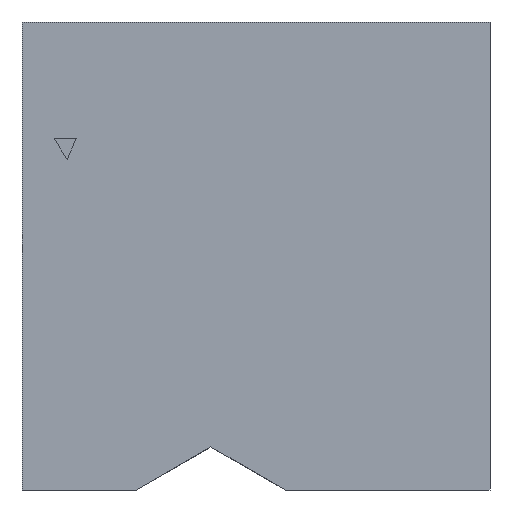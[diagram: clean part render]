
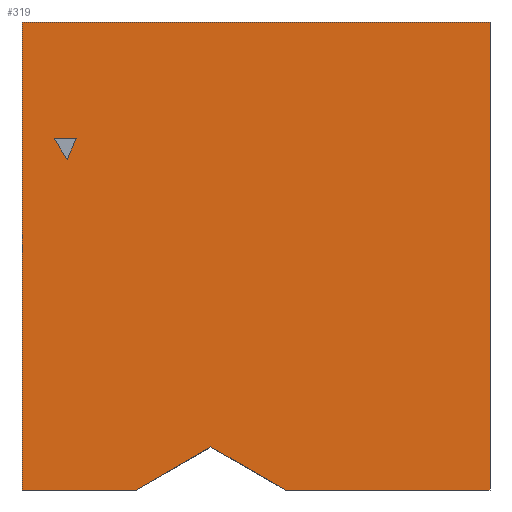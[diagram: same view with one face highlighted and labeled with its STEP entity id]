
A CAD part, front view. The second image highlights one B-rep face of the part: STEP entity #319.
In plain terms, the highlighted planar face has unit normal (0, -1, 0).
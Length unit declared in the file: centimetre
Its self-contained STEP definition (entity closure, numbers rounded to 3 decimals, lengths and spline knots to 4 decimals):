
#6 = VERTEX_POINT ( 'NONE', #466 ) ;
#31 = CARTESIAN_POINT ( 'NONE',  ( 244.2309, 0., 0. ) ) ;
#55 = VERTEX_POINT ( 'NONE', #109 ) ;
#71 = LINE ( 'NONE', #739, #266 ) ;
#73 = VERTEX_POINT ( 'NONE', #216 ) ;
#82 = VECTOR ( 'NONE', #890, 100. ) ;
#84 = ORIENTED_EDGE ( 'NONE', *, *, #802, .T. ) ;
#109 = CARTESIAN_POINT ( 'NONE',  ( 562.8654, 0., 0. ) ) ;
#112 = CARTESIAN_POINT ( 'NONE',  ( 0., 0., 1000. ) ) ;
#126 = VERTEX_POINT ( 'NONE', #221 ) ;
#152 = ORIENTED_EDGE ( 'NONE', *, *, #242, .F. ) ;
#191 = ORIENTED_EDGE ( 'NONE', *, *, #1026, .T. ) ;
#192 = LINE ( 'NONE', #850, #747 ) ;
#199 = ORIENTED_EDGE ( 'NONE', *, *, #738, .F. ) ;
#216 = CARTESIAN_POINT ( 'NONE',  ( 0., 0., 1000. ) ) ;
#218 = ORIENTED_EDGE ( 'NONE', *, *, #876, .F. ) ;
#221 = CARTESIAN_POINT ( 'NONE',  ( 115.8842, 0., 750.3192 ) ) ;
#222 = FACE_OUTER_BOUND ( 'NONE', #677, .T. ) ;
#234 = VERTEX_POINT ( 'NONE', #463 ) ;
#239 = LINE ( 'NONE', #568, #1037 ) ;
#241 = EDGE_LOOP ( 'NONE', ( #356, #218, #966 ) ) ;
#242 = EDGE_CURVE ( 'NONE', #73, #737, #192, .T. ) ;
#243 = CARTESIAN_POINT ( 'NONE',  ( 0., 0., 0. ) ) ;
#260 = CARTESIAN_POINT ( 'NONE',  ( 115.8842, 0., 750.3192 ) ) ;
#266 = VECTOR ( 'NONE', #273, 100. ) ;
#272 = VERTEX_POINT ( 'NONE', #687 ) ;
#273 = DIRECTION ( 'NONE',  ( 1., 0., 0. ) ) ;
#274 = LINE ( 'NONE', #446, #386 ) ;
#319 = ADVANCED_FACE ( 'NONE', ( #791, #222 ), #704, .F. ) ;
#325 = CARTESIAN_POINT ( 'NONE',  ( 1000., 0., 0. ) ) ;
#333 = LINE ( 'NONE', #967, #770 ) ;
#350 = LINE ( 'NONE', #260, #711 ) ;
#356 = ORIENTED_EDGE ( 'NONE', *, *, #680, .F. ) ;
#360 = CARTESIAN_POINT ( 'NONE',  ( 96.4441, 0., 706.9683 ) ) ;
#371 = VERTEX_POINT ( 'NONE', #325 ) ;
#386 = VECTOR ( 'NONE', #903, 100. ) ;
#390 = VECTOR ( 'NONE', #999, 100. ) ;
#412 = VECTOR ( 'NONE', #1044, 100. ) ;
#427 = ORIENTED_EDGE ( 'NONE', *, *, #705, .F. ) ;
#435 = DIRECTION ( 'NONE',  ( 0.54, 0., -0.842 ) ) ;
#439 = CARTESIAN_POINT ( 'NONE',  ( 68.6212, 0., 750.3192 ) ) ;
#446 = CARTESIAN_POINT ( 'NONE',  ( 244.2309, 0., 0. ) ) ;
#463 = CARTESIAN_POINT ( 'NONE',  ( 0., 0., 0. ) ) ;
#466 = CARTESIAN_POINT ( 'NONE',  ( 68.6212, 0., 750.3192 ) ) ;
#470 = LINE ( 'NONE', #112, #390 ) ;
#472 = DIRECTION ( 'NONE',  ( 0., 1., 0. ) ) ;
#476 = DIRECTION ( 'NONE',  ( -0.866, 0., 0.5 ) ) ;
#561 = EDGE_CURVE ( 'NONE', #272, #991, #274, .T. ) ;
#568 = CARTESIAN_POINT ( 'NONE',  ( 403.5481, 0., 92.0532 ) ) ;
#599 = VERTEX_POINT ( 'NONE', #360 ) ;
#639 = CARTESIAN_POINT ( 'NONE',  ( 1000., 0., 1000. ) ) ;
#655 = CARTESIAN_POINT ( 'NONE',  ( 96.4441, 0., 706.9683 ) ) ;
#660 = DIRECTION ( 'NONE',  ( 0., 0., -1. ) ) ;
#677 = EDGE_LOOP ( 'NONE', ( #84, #744, #199, #908, #427, #152, #191 ) ) ;
#680 = EDGE_CURVE ( 'NONE', #599, #126, #735, .T. ) ;
#687 = CARTESIAN_POINT ( 'NONE',  ( 403.5481, 0., 92.0532 ) ) ;
#704 = PLANE ( 'NONE',  #877 ) ;
#705 = EDGE_CURVE ( 'NONE', #737, #371, #333, .T. ) ;
#711 = VECTOR ( 'NONE', #987, 100. ) ;
#735 = LINE ( 'NONE', #655, #412 ) ;
#737 = VERTEX_POINT ( 'NONE', #639 ) ;
#738 = EDGE_CURVE ( 'NONE', #55, #272, #239, .T. ) ;
#739 = CARTESIAN_POINT ( 'NONE',  ( 0., 0., 0. ) ) ;
#744 = ORIENTED_EDGE ( 'NONE', *, *, #561, .F. ) ;
#747 = VECTOR ( 'NONE', #760, 100. ) ;
#760 = DIRECTION ( 'NONE',  ( 1., 0., 0. ) ) ;
#770 = VECTOR ( 'NONE', #660, 100. ) ;
#791 = FACE_BOUND ( 'NONE', #241, .T. ) ;
#797 = CARTESIAN_POINT ( 'NONE',  ( 0., 0., 1000. ) ) ;
#802 = EDGE_CURVE ( 'NONE', #234, #991, #806, .T. ) ;
#806 = LINE ( 'NONE', #243, #82 ) ;
#815 = LINE ( 'NONE', #439, #986 ) ;
#850 = CARTESIAN_POINT ( 'NONE',  ( 0., 0., 1000. ) ) ;
#863 = EDGE_CURVE ( 'NONE', #55, #371, #71, .T. ) ;
#876 = EDGE_CURVE ( 'NONE', #6, #599, #815, .T. ) ;
#877 = AXIS2_PLACEMENT_3D ( 'NONE', #797, #472, #930 ) ;
#890 = DIRECTION ( 'NONE',  ( 1., 0., 0. ) ) ;
#903 = DIRECTION ( 'NONE',  ( -0.866, 0., -0.5 ) ) ;
#908 = ORIENTED_EDGE ( 'NONE', *, *, #863, .T. ) ;
#930 = DIRECTION ( 'NONE',  ( 0., 0., 1. ) ) ;
#945 = EDGE_CURVE ( 'NONE', #126, #6, #350, .T. ) ;
#966 = ORIENTED_EDGE ( 'NONE', *, *, #945, .F. ) ;
#967 = CARTESIAN_POINT ( 'NONE',  ( 1000., 0., 1000. ) ) ;
#986 = VECTOR ( 'NONE', #435, 100. ) ;
#987 = DIRECTION ( 'NONE',  ( -1., 0., 0. ) ) ;
#991 = VERTEX_POINT ( 'NONE', #31 ) ;
#999 = DIRECTION ( 'NONE',  ( 0., 0., -1. ) ) ;
#1026 = EDGE_CURVE ( 'NONE', #73, #234, #470, .T. ) ;
#1037 = VECTOR ( 'NONE', #476, 100. ) ;
#1044 = DIRECTION ( 'NONE',  ( 0.409, 0., 0.912 ) ) ;
